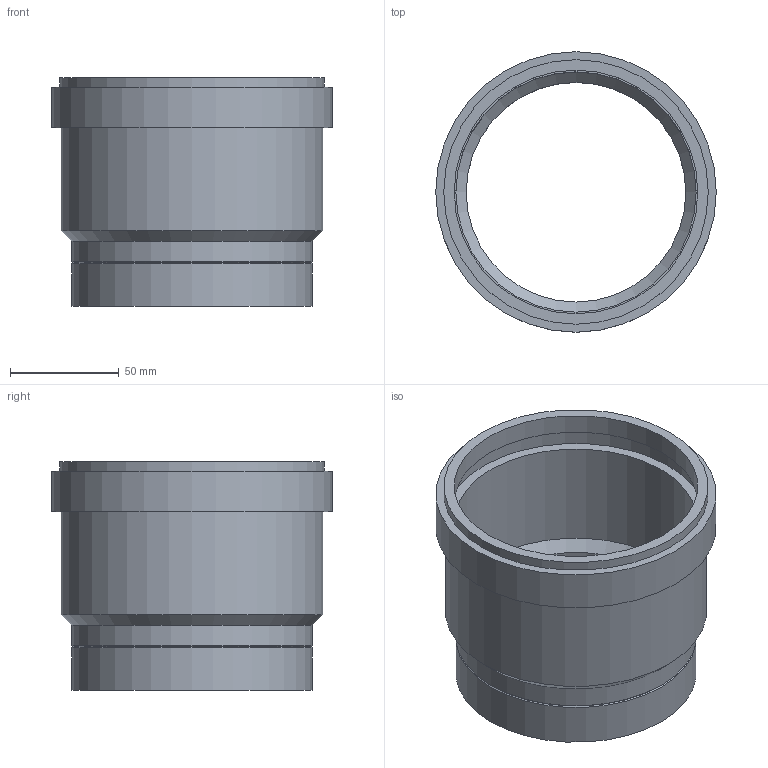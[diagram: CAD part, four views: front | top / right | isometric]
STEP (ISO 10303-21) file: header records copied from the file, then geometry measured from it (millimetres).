
FILE_DESCRIPTION(/* description */ (''),/* implementation_level */ '2;1');
FILE_NAME(/* name */ 'C:\Geberit-Teile\Export 2019\360.779.16.3\stp\367779.stp',/* time_stamp */ '2019-06-06T10:45:29+02:00',/* author */ ('JANAN'),/* organization */ (''),/* preprocessor_version */ 'ST-DEVELOPER v16.13',/* originating_system */ 'Autodesk Inventor 2018',/* authorisation */ '');
FILE_SCHEMA (('AUTOMOTIVE_DESIGN { 1 0 10303 214 3 1 1 }'));
Length unit declared in the file: millimetre
Products named in the file (1): StMuf mit LipDicht PE-HD d110 L10.5
Bounding box: 128.75 x 128.75 x 105 mm (x, y, z)
Volume: 197288.7 mm3; surface area: 85731.8 mm2
Topology: 1 solids, 1 shells, 19 faces, 34 edges, 21 vertices
Faces by surface type: cylinder 9, plane 6, cone 4
Full cylindrical faces by diameter (mm): 100.8 x1, 110.3 x1, 110.4 x2, 111.8 x1, 119.15 x1, 119.9 x1, 121.4 x1, 128.75 x1
Entity records: 446 total; most frequent: DIRECTION 78, CARTESIAN_POINT 58, AXIS2_PLACEMENT_3D 39, EDGE_LOOP 38, ORIENTED_EDGE 38, STYLED_ITEM 20, FACE_BOUND 19, FACE_OUTER_BOUND 19
